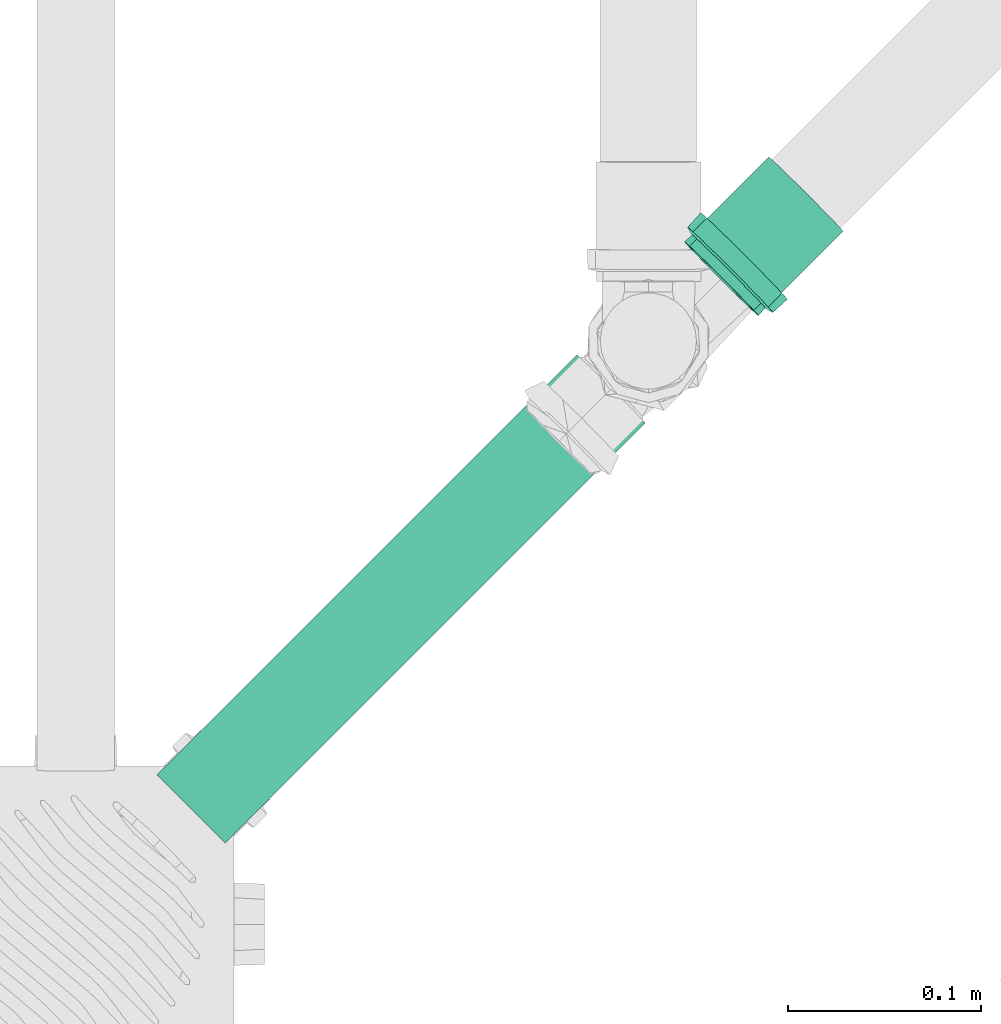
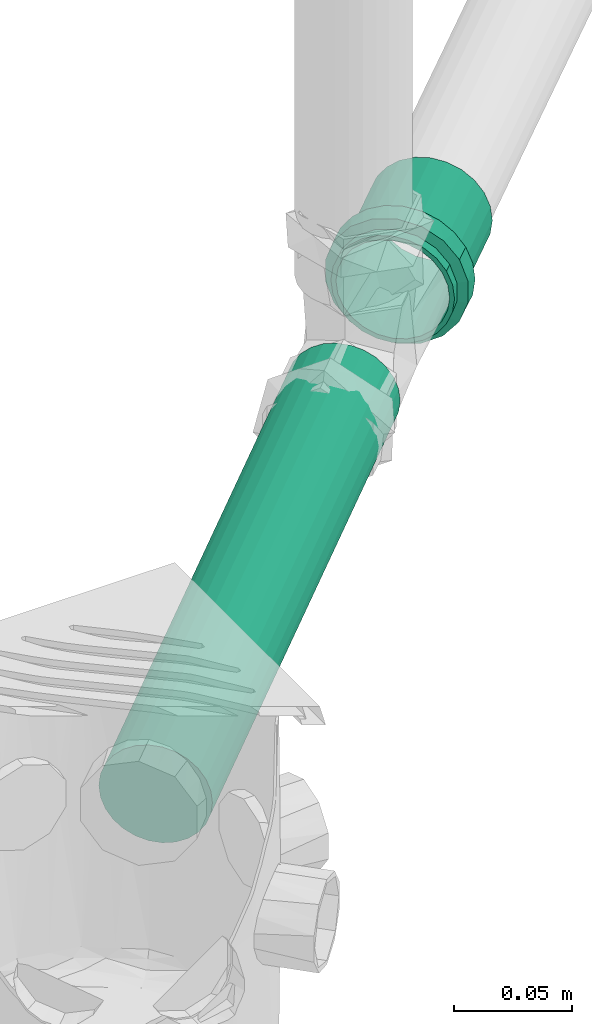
# One storey, part 198 of 589: 1 flow fitting, 1 flow segment.
"""IFC2X3 building model written with IfcOpenShell, lengths in millimetres."""

from ifc_helpers import new_model, entity, si_unit, converted_unit, derived_unit, direction, frame, frame_2d, origin, place, context, subcontext, project, spatial, circle, extrude, faceted_brep, source, transform, mapped, material, type_object, type_shapes, element, save


model = new_model("IFC2X3")

# Units and contexts
model_context = context("Model", 3, precision=0.01, world=origin(), true_north=direction((6.123031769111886e-17, 1.0)))
body_context = subcontext(model_context, "Body", "Model", "MODEL_VIEW")
ifc_project = project(units=[si_unit("LENGTHUNIT", "METRE", prefix="MILLI"), si_unit("AREAUNIT", "SQUARE_METRE"), si_unit("VOLUMEUNIT", "CUBIC_METRE"), converted_unit("PLANEANGLEUNIT", "DEGREE", entity("IfcRatioMeasure", 0.017453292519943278), si_unit("PLANEANGLEUNIT", "RADIAN"), dimensions=[0, 0, 0, 0, 0, 0, 0]), si_unit("MASSUNIT", "GRAM", prefix="KILO"), derived_unit("MASSDENSITYUNIT", [(si_unit("MASSUNIT", "GRAM", prefix="KILO"), 1), (si_unit("LENGTHUNIT", "METRE"), -3)]), derived_unit("IONCONCENTRATIONUNIT", [(si_unit("MASSUNIT", "GRAM", prefix="KILO"), 1), (si_unit("LENGTHUNIT", "METRE"), -3)]), derived_unit("MOMENTOFINERTIAUNIT", [(si_unit("LENGTHUNIT", "METRE"), 4)]), si_unit("TIMEUNIT", "SECOND"), si_unit("FREQUENCYUNIT", "HERTZ"), si_unit("THERMODYNAMICTEMPERATUREUNIT", "DEGREE_CELSIUS"), derived_unit("THERMALTRANSMITTANCEUNIT", [(si_unit("MASSUNIT", "GRAM", prefix="KILO"), 1), (si_unit("THERMODYNAMICTEMPERATUREUNIT", "KELVIN"), -1), (si_unit("TIMEUNIT", "SECOND"), -3)]), derived_unit("THERMALCONDUCTANCEUNIT", [(si_unit("MASSUNIT", "GRAM", prefix="KILO"), 1), (si_unit("THERMODYNAMICTEMPERATUREUNIT", "KELVIN"), -1), (si_unit("TIMEUNIT", "SECOND"), -3), (si_unit("LENGTHUNIT", "METRE"), 1)]), derived_unit("VOLUMETRICFLOWRATEUNIT", [(si_unit("LENGTHUNIT", "METRE"), 3), (si_unit("TIMEUNIT", "SECOND"), -1)]), derived_unit("MASSFLOWRATEUNIT", [(si_unit("MASSUNIT", "GRAM", prefix="KILO"), 1), (si_unit("TIMEUNIT", "SECOND"), -1)]), derived_unit("ROTATIONALFREQUENCYUNIT", [(si_unit("TIMEUNIT", "SECOND"), -1)]), si_unit("ELECTRICCURRENTUNIT", "AMPERE"), si_unit("ELECTRICVOLTAGEUNIT", "VOLT"), si_unit("POWERUNIT", "WATT"), si_unit("FORCEUNIT", "NEWTON", prefix="KILO"), si_unit("ILLUMINANCEUNIT", "LUX"), si_unit("LUMINOUSFLUXUNIT", "LUMEN"), si_unit("LUMINOUSINTENSITYUNIT", "CANDELA"), derived_unit("USERDEFINED", [(si_unit("MASSUNIT", "GRAM", prefix="KILO"), -1), (si_unit("LENGTHUNIT", "METRE"), -2), (si_unit("TIMEUNIT", "SECOND"), 3), (si_unit("LUMINOUSFLUXUNIT", "LUMEN"), 1)]), derived_unit("USERDEFINED", [(si_unit("MASSUNIT", "GRAM", prefix="KILO"), 1), (si_unit("TIMEUNIT", "SECOND"), -3), (si_unit("LENGTHUNIT", "METRE"), 3), (si_unit("ELECTRICCURRENTUNIT", "AMPERE"), -2)]), derived_unit("SOUNDPOWERUNIT", [(si_unit("MASSUNIT", "GRAM", prefix="KILO"), 1), (si_unit("TIMEUNIT", "SECOND"), -3), (si_unit("LENGTHUNIT", "METRE"), 2)]), derived_unit("SOUNDPRESSUREUNIT", [(si_unit("MASSUNIT", "GRAM", prefix="KILO"), 1), (si_unit("LENGTHUNIT", "METRE"), -1), (si_unit("TIMEUNIT", "SECOND"), -2)]), derived_unit("LINEARVELOCITYUNIT", [(si_unit("LENGTHUNIT", "METRE"), 1), (si_unit("TIMEUNIT", "SECOND"), -1)]), si_unit("PRESSUREUNIT", "PASCAL"), derived_unit("USERDEFINED", [(si_unit("MASSUNIT", "GRAM", prefix="KILO"), 1), (si_unit("LENGTHUNIT", "METRE"), -2), (si_unit("TIMEUNIT", "SECOND"), -2)]), derived_unit("LINEARFORCEUNIT", [(si_unit("MASSUNIT", "GRAM", prefix="KILO"), 1), (si_unit("TIMEUNIT", "SECOND"), -2)]), derived_unit("PLANARFORCEUNIT", [(si_unit("MASSUNIT", "GRAM", prefix="KILO"), 1), (si_unit("LENGTHUNIT", "METRE"), -1), (si_unit("TIMEUNIT", "SECOND"), -2)]), derived_unit("SPECIFICHEATCAPACITYUNIT", [(si_unit("THERMODYNAMICTEMPERATUREUNIT", "KELVIN"), -1), (si_unit("LENGTHUNIT", "METRE"), 2), (si_unit("TIMEUNIT", "SECOND"), -2)]), derived_unit("HEATINGVALUEUNIT", [(si_unit("LENGTHUNIT", "METRE"), 2), (si_unit("TIMEUNIT", "SECOND"), -2)]), derived_unit("VAPORPERMEABILITYUNIT", [(si_unit("LENGTHUNIT", "METRE"), -1), (si_unit("TIMEUNIT", "SECOND"), 1)]), derived_unit("DYNAMICVISCOSITYUNIT", [(si_unit("MASSUNIT", "GRAM", prefix="KILO"), 1), (si_unit("TIMEUNIT", "SECOND"), -1), (si_unit("LENGTHUNIT", "METRE"), -1)]), derived_unit("THERMALEXPANSIONCOEFFICIENTUNIT", [(si_unit("THERMODYNAMICTEMPERATUREUNIT", "KELVIN"), -1)]), derived_unit("MODULUSOFELASTICITYUNIT", [(si_unit("MASSUNIT", "GRAM", prefix="KILO"), 1), (si_unit("LENGTHUNIT", "METRE"), -1), (si_unit("TIMEUNIT", "SECOND"), -2)]), derived_unit("ISOTHERMALMOISTURECAPACITYUNIT", [(si_unit("LENGTHUNIT", "METRE"), 3), (si_unit("MASSUNIT", "GRAM", prefix="KILO"), -1)]), derived_unit("MOISTUREDIFFUSIVITYUNIT", [(si_unit("TIMEUNIT", "SECOND"), -1), (si_unit("LENGTHUNIT", "METRE"), 2)])], contexts=[model_context])

# Site, building, storey
site_placement = place(None, origin())
site = spatial("IfcSite", under=ifc_project, at=site_placement, Name="Default", CompositionType="ELEMENT")
building_placement = place(site_placement, origin())
building = spatial("IfcBuilding", under=site, at=building_placement, CompositionType="ELEMENT")
storey_placement = place(building_placement, frame((0.0, 0.0, 100.0)))
storey = spatial("IfcBuildingStorey", under=building, at=storey_placement, Name="TÉRREO", CompositionType="ELEMENT", Elevation=100.0)

# Flow segment
pipe_segment_type = type_object("IfcPipeSegmentType", Name="Tipos de tubos:PVC Esgoto Série Normal", PredefinedType="NOTDEFINED")
flow_segment_placement = place(storey_placement, origin())
element("IfcFlowSegment", 1, at=flow_segment_placement, inside=storey, type_object=pipe_segment_type, Name="Tipos de tubos:PVC Esgoto Série Normal", ObjectType="Tipos de tubos:PVC Esgoto Série Normal", context=body_context, shape_type="SweptSolid", body=[
    extrude(circle(Radius=25.0, at=frame_2d((7.657026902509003e-13, -3.383959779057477e-14), x_axis=(1.0, 0.0))), frame((7609.116250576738, -415.88403786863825, -263.01025401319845), z_axis=(0.7071067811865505, 0.7071067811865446, 0.0), x_axis=(0.7071067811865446, -0.7071067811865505, 0.0)), (0.0, 0.0, 1.0), 308.1856611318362),
])

# Flow fitting
ifc_material = material(Name="PVC Série Normal")
pipe_fitting_type = type_object("IfcPipeFittingType", Name="PVC Esgoto_Luva Simples para Conexão_Rodrigo MEP:Standard", PredefinedType="NOTDEFINED", material=ifc_material)
shared_shape = source(origin(), body_context, "Body", "Brep", [
    faceted_brep([(16.599999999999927, 15.900000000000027, -27.53960784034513), (16.599999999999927, 22.485995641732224, -22.485995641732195), (16.599999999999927, 13.599999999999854, -23.555890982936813), (16.599999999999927, 7.039878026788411, -26.273182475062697), (16.599999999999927, 8.2304456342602, -30.71644127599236), (16.599999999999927, 19.233304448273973, -19.233304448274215), (16.599999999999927, 27.539607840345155, -15.899999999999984), (16.599999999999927, 23.55589098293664, -13.600000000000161), (16.599999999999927, 26.273182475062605, -7.03987802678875), (16.599999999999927, 30.716441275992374, -8.230445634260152), (16.599999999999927, 27.2, 0.0), (16.599999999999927, 31.8, 0.0), (16.599999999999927, 26.273182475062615, 7.0398780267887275), (16.599999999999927, 30.71644127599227, 8.23044563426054), (16.599999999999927, 23.555890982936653, 13.60000000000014), (16.599999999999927, 27.539607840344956, 15.900000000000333), (16.599999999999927, 19.233304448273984, 19.2333044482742), (16.599999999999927, 22.485995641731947, 22.48599564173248), (16.599999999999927, 13.599999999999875, 23.555890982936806), (16.599999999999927, 15.899999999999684, 27.53960784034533), (16.599999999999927, 7.039878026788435, 26.27318247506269), (16.599999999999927, 8.230445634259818, 30.716441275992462), (16.599999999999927, 0.0, 27.2), (16.599999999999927, 0.0, 31.8), (16.599999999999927, -7.039878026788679, 26.273182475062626), (16.599999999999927, -8.230445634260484, 30.716441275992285), (16.599999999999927, -13.600000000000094, 23.555890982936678), (16.599999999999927, -15.900000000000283, 27.53960784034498), (16.599999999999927, -19.23330444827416, 19.233304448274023), (16.599999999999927, -22.485995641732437, 22.48599564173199), (16.599999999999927, -23.55589098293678, 13.59999999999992), (16.599999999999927, -27.539607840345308, 15.899999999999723), (16.599999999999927, -30.71644127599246, 8.230445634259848), (16.599999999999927, -26.273182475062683, 7.039878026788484), (16.599999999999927, -31.8, 0.0), (16.599999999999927, -27.2, 0.0), (16.599999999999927, -30.71644127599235, -8.23044563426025), (16.599999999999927, -26.273182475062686, -7.03987802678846), (16.599999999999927, -27.53960784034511, -15.90000000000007), (16.599999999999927, -23.55589098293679, -13.599999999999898), (16.599999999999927, -22.485995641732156, -22.485995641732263), (16.599999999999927, -19.233304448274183, -19.233304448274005), (16.599999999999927, -15.899999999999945, -27.53960784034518), (16.599999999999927, -13.600000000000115, -23.555890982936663), (16.599999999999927, -8.230445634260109, -30.716441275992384), (16.599999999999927, -7.039878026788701, -26.273182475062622), (16.599999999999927, 0.0, -31.8), (16.599999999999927, 0.0, -27.2), (6.500000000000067, -10.708108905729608, 29.429219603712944), (6.500000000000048, -24.359073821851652, 20.44200387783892), (6.500000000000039, -27.120498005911, 15.6595386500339), (6.50000000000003, -29.881922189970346, 10.877073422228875), (6.500000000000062, -15.89769721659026, 27.540937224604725), (6.500000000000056, -20.128385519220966, 23.991470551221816), (6.50000000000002, -30.840961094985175, 5.438536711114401), (6.5000000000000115, -31.8, 0.0), (6.50000000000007, -5.518520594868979, 31.317501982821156), (6.500000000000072, 5.526376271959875, 31.316116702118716), (6.50000000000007, 0.00392783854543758, 31.316809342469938), (6.500000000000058, 20.134403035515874, 23.986420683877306), (6.500000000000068, 10.715490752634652, 29.42653259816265), (6.500000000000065, 15.904605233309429, 27.536948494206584), (6.500000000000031, 29.8846497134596, 10.869577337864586), (6.500000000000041, 27.12442527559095, 15.652735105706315), (6.5000000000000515, 24.364200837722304, 20.435892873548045), (6.5000000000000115, 31.8, 0.0), (6.499999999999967, 24.364200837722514, -20.435892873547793), (6.499999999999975, 27.12442527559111, -15.652735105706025), (6.499999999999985, 29.884649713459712, -10.869577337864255), (6.4999999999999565, 15.904605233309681, -27.53694849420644), (6.499999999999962, 20.134403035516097, -23.986420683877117), (6.499999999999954, 10.715490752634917, -29.42653259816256), (6.499999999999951, 5.526376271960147, -31.31611670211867), (6.499999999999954, -5.518520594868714, -31.317501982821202), (6.499999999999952, 0.003927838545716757, -31.316809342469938), (6.499999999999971, -20.128385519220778, -23.99147055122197), (6.499999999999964, -15.897697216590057, -27.54093722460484), (6.499999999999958, -10.70810890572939, -29.42921960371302), (6.499999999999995, -29.881922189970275, -10.877073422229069), (6.499999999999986, -27.12049800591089, -15.659538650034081), (6.499999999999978, -24.359073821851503, -20.442003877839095), (6.500000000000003, -30.840961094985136, -5.438536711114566), (6.499999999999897, -30.696173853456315, -6.259599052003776), (62.0, 13.600000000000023, -23.55589098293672), (62.0, 19.233304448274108, -19.23330444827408), (62.0, 12.499999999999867, -21.650635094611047), (62.0, 6.470476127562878, -24.14814565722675), (62.0, 7.039878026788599, -26.273182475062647), (62.0, 17.677669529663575, -17.677669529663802), (62.0, 23.55589098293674, -13.599999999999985), (62.0, 21.65063509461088, -12.50000000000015), (62.0, 24.148145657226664, -6.470476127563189), (62.0, 26.27318247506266, -7.039878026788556), (62.0, 25.0, 0.0), (62.0, 27.2, 0.0), (62.0, 24.148145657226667, 6.4704761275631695), (62.0, 26.273182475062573, 7.03987802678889), (62.0, 21.650635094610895, 12.500000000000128), (62.0, 23.555890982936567, 13.600000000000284), (62.0, 17.67766952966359, 17.67766952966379), (62.0, 19.233304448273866, 19.233304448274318), (62.0, 12.499999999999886, 21.650635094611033), (62.0, 13.59999999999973, 23.55589098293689), (62.0, 6.4704761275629, 24.14814565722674), (62.0, 7.039878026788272, 26.273182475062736), (62.0, 0.0, 25.0), (62.0, 0.0, 27.2), (62.0, -6.470476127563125, 24.148145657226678), (62.0, -7.039878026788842, 26.273182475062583), (62.0, -12.500000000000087, 21.650635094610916), (62.0, -13.600000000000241, 23.555890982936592), (62.0, -17.677669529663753, 17.677669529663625), (62.0, -19.233304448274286, 19.2333044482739), (62.0, -21.65063509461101, 12.499999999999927), (62.0, -23.555890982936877, 13.599999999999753), (62.0, -26.27318247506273, 7.039878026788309), (62.0, -24.14814565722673, 6.470476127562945), (62.0, -27.2, 0.0), (62.0, -25.0, 0.0), (62.0, -26.27318247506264, -7.0398780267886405), (62.0, -24.148145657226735, -6.470476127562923), (62.0, -23.5558909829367, -13.600000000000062), (62.0, -21.650635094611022, -12.499999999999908), (62.0, -19.233304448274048, -19.233304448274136), (62.0, -17.67766952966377, -17.677669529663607), (62.0, -13.599999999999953, -23.555890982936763), (62.0, -12.500000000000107, -21.650635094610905), (62.0, -7.039878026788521, -26.27318247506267), (62.0, -6.470476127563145, -24.148145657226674), (62.0, 0.0, -27.2), (62.0, 0.0, -25.0), (0.0, 12.499999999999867, -21.650635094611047), (0.0, 19.233304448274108, -19.23330444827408), (0.0, 13.600000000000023, -23.55589098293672), (0.0, 6.470476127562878, -24.14814565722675), (0.0, 17.677669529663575, -17.677669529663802), (0.0, 23.55589098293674, -13.599999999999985), (0.0, 21.65063509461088, -12.50000000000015), (0.0, 24.148145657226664, -6.470476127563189), (0.0, 26.27318247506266, -7.039878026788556), (0.0, 25.0, 0.0), (0.0, 27.2, 0.0), (0.0, 24.148145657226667, 6.4704761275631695), (0.0, 26.273182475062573, 7.03987802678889), (0.0, 21.650635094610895, 12.500000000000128), (0.0, 23.555890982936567, 13.600000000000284), (0.0, 17.67766952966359, 17.67766952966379), (0.0, 19.233304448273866, 19.233304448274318), (0.0, 12.499999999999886, 21.650635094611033), (0.0, 13.59999999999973, 23.55589098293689), (0.0, 6.4704761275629, 24.14814565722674), (0.0, 7.039878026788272, 26.273182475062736), (0.0, 0.0, 25.0), (0.0, 0.0, 27.2), (0.0, -6.470476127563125, 24.148145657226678), (0.0, -7.039878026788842, 26.273182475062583), (0.0, -12.500000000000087, 21.650635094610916), (0.0, -13.600000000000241, 23.555890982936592), (0.0, -17.677669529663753, 17.677669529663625), (0.0, -19.233304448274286, 19.2333044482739), (0.0, -21.65063509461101, 12.499999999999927), (0.0, -23.555890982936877, 13.599999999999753), (0.0, -26.27318247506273, 7.039878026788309), (0.0, -24.14814565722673, 6.470476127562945), (0.0, -27.2, 0.0), (0.0, -25.0, 0.0), (0.0, -26.27318247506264, -7.0398780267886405), (0.0, -24.148145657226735, -6.470476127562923), (0.0, -23.5558909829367, -13.600000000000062), (0.0, -21.650635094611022, -12.499999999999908), (0.0, -19.233304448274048, -19.233304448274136), (0.0, -17.67766952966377, -17.677669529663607), (0.0, -13.599999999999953, -23.555890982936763), (0.0, -12.500000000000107, -21.650635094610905), (0.0, -7.039878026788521, -26.27318247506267), (0.0, -6.470476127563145, -24.148145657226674), (0.0, 0.0, -27.2), (0.0, 0.0, -25.0), (0.0, 7.039878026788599, -26.273182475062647), (5.300000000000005, -26.37968999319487, 4.651830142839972), (5.299999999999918, -26.25584678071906, 5.354122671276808), (5.300000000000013, -25.559379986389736, 9.303660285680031), (5.300000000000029, -20.835434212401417, 17.48498444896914), (5.300000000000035, -17.216732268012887, 20.521006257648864), (5.300000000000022, -23.19740709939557, 13.394322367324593), (5.3000000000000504, -4.720244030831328, 26.787297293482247), (5.300000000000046, -9.15913717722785, 25.172162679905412), (5.299999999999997, -27.2, 0.0), (5.300000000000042, -13.598030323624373, 23.557028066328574), (5.300000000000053, 9.165451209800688, 25.169864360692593), (5.300000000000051, 13.603939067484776, 23.55361632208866), (5.300000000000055, 4.7269633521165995, 26.786112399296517), (5.300000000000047, 17.221879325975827, 20.516686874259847), (5.300000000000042, 20.839819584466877, 17.479757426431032), (5.3000000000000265, 25.56171296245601, 9.297248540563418), (5.299999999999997, 27.2, 0.0), (5.3000000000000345, 23.20076627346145, 13.388502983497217), (5.300000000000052, 0.003359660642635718, 26.786704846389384), (5.299999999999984, 25.56171296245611, -9.29724854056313), (5.299999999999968, 20.839819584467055, -17.47975742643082), (5.2999999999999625, 17.22187932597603, -20.516686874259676), (5.299999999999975, 23.200766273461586, -13.388502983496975), (5.299999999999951, 4.726963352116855, -26.78611239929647), (5.2999999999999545, 9.165451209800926, -25.169864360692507), (5.299999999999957, 13.603939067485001, -23.553616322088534), (5.29999999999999, -26.379689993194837, -4.651830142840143), (5.299999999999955, -9.159137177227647, -25.17216267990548), (5.299999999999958, -13.5980303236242, -23.55702806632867), (5.299999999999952, -4.720244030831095, -26.787297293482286), (5.299999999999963, -17.216732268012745, -20.52100625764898), (5.299999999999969, -20.83543421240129, -17.484984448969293), (5.299999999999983, -25.559379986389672, -9.303660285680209), (5.299999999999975, -23.197407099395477, -13.394322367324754), (5.299999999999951, 0.003359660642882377, -26.78670484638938), (39.0, -25.0, 0.0), (39.0, 25.0, 0.0)], [[[0, 1, 2]], [[0, 2, 3]], [[3, 4, 0]], [[2, 1, 5]], [[6, 5, 1]], [[7, 5, 6]], [[8, 7, 6]], [[8, 6, 9]], [[8, 9, 10]], [[10, 9, 11]], [[12, 10, 11]], [[12, 11, 13]], [[14, 12, 13]], [[14, 13, 15]], [[16, 14, 15]], [[15, 17, 16]], [[17, 18, 16]], [[17, 19, 18]], [[18, 19, 20]], [[21, 20, 19]], [[20, 21, 22]], [[22, 21, 23]], [[22, 23, 24]], [[24, 23, 25]], [[24, 25, 26]], [[27, 26, 25]], [[27, 28, 26]], [[28, 27, 29]], [[30, 28, 29]], [[31, 30, 29]], [[32, 30, 31]], [[33, 30, 32]], [[33, 32, 34]], [[35, 33, 34]], [[36, 35, 34]], [[36, 37, 35]], [[37, 36, 38]], [[39, 37, 38]], [[39, 38, 40]], [[39, 40, 41]], [[40, 42, 41]], [[41, 42, 43]], [[43, 42, 44]], [[44, 45, 43]], [[46, 45, 44]], [[4, 47, 46]], [[46, 47, 45]], [[4, 3, 47]], [[48, 27, 25]], [[31, 29, 49]], [[31, 49, 50, 51]], [[52, 53, 27]], [[32, 51, 54]], [[54, 55, 34]], [[54, 34, 32]], [[25, 56, 48]], [[49, 29, 53]], [[23, 57, 58, 56]], [[59, 19, 17]], [[27, 53, 29]], [[48, 52, 27]], [[31, 51, 32]], [[57, 23, 21]], [[60, 19, 61]], [[15, 62, 63, 64]], [[19, 60, 21]], [[15, 13, 62]], [[17, 64, 59]], [[57, 21, 60]], [[23, 56, 25]], [[15, 64, 17]], [[13, 65, 62]], [[13, 11, 65]], [[59, 61, 19]], [[65, 11, 9]], [[6, 1, 66]], [[6, 66, 67, 68]], [[69, 70, 0]], [[68, 65, 9]], [[71, 69, 0]], [[71, 0, 4]], [[4, 72, 71]], [[66, 1, 70]], [[46, 73, 74, 72]], [[75, 76, 42]], [[0, 70, 1]], [[75, 42, 40]], [[6, 68, 9]], [[73, 46, 44]], [[77, 42, 76]], [[38, 78, 79, 80]], [[42, 77, 44]], [[38, 36, 78]], [[40, 80, 75]], [[73, 44, 77]], [[46, 72, 4]], [[38, 80, 40]], [[36, 81, 82, 78]], [[55, 81, 34]], [[34, 81, 36]], [[83, 84, 85]], [[83, 85, 86]], [[86, 87, 83]], [[85, 84, 88]], [[89, 88, 84]], [[88, 89, 90]], [[90, 89, 91]], [[92, 91, 89]], [[92, 93, 91]], [[93, 92, 94]], [[95, 93, 94]], [[94, 96, 95]], [[95, 96, 97]], [[98, 97, 96]], [[97, 98, 99]], [[99, 98, 100]], [[101, 99, 100]], [[100, 102, 101]], [[101, 102, 103]], [[104, 103, 102]], [[103, 104, 105]], [[105, 104, 106]], [[105, 106, 107]], [[107, 106, 108]], [[107, 108, 109]], [[110, 109, 108]], [[110, 111, 109]], [[111, 110, 112]], [[112, 113, 111]], [[114, 113, 112]], [[113, 114, 115]], [[115, 116, 113]], [[117, 116, 115]], [[117, 118, 116]], [[119, 118, 117]], [[119, 120, 118]], [[120, 119, 121]], [[121, 122, 120]], [[122, 121, 123]], [[122, 123, 124]], [[123, 125, 124]], [[124, 125, 126]], [[126, 125, 127]], [[127, 128, 126]], [[129, 128, 127]], [[87, 130, 129]], [[129, 130, 128]], [[87, 86, 130]], [[131, 132, 133]], [[134, 131, 133]], [[135, 132, 131]], [[132, 135, 136]], [[137, 136, 135]], [[138, 136, 137]], [[136, 138, 139]], [[138, 140, 139]], [[141, 139, 140]], [[141, 140, 142]], [[142, 143, 141]], [[144, 143, 142]], [[143, 144, 145]], [[146, 145, 144]], [[147, 145, 146]], [[147, 146, 148]], [[148, 149, 147]], [[150, 149, 148]], [[149, 150, 151]], [[152, 151, 150]], [[153, 151, 152]], [[154, 153, 152]], [[155, 153, 154]], [[156, 155, 154]], [[155, 156, 157]], [[156, 158, 157]], [[159, 157, 158]], [[158, 160, 159]], [[159, 160, 161]], [[162, 161, 160]], [[160, 163, 162]], [[162, 163, 164]], [[163, 165, 164]], [[164, 165, 166]], [[165, 167, 166]], [[168, 166, 167]], [[167, 169, 168]], [[170, 168, 169]], [[171, 170, 169]], [[171, 172, 170]], [[173, 172, 171]], [[174, 172, 173]], [[173, 175, 174]], [[174, 175, 176]], [[175, 177, 176]], [[177, 134, 178]], [[176, 177, 178]], [[133, 178, 134]], [[162, 179, 180, 181]], [[159, 182, 183]], [[182, 161, 181, 184]], [[185, 155, 186]], [[161, 162, 181]], [[187, 179, 164]], [[183, 188, 157]], [[183, 157, 159]], [[161, 182, 159]], [[189, 190, 149]], [[189, 149, 151]], [[157, 188, 186]], [[157, 186, 155]], [[153, 155, 185]], [[164, 179, 162]], [[151, 191, 189]], [[147, 192, 193]], [[143, 194, 195]], [[194, 145, 193, 196]], [[143, 195, 141]], [[10, 12, 96, 94]], [[149, 192, 147]], [[153, 185, 197, 191]], [[153, 191, 151]], [[145, 147, 193]], [[190, 192, 149]], [[145, 194, 143]], [[139, 195, 198]], [[132, 199, 200]], [[199, 136, 198, 201]], [[202, 178, 203]], [[136, 139, 198]], [[139, 141, 195]], [[92, 8, 10, 94]], [[133, 203, 178]], [[200, 204, 133]], [[136, 199, 132]], [[205, 164, 166]], [[206, 207, 172]], [[133, 204, 203]], [[206, 172, 174]], [[176, 178, 202]], [[200, 133, 132]], [[174, 208, 206]], [[170, 209, 210]], [[166, 211, 205]], [[211, 168, 210, 212]], [[168, 211, 166]], [[172, 209, 170]], [[176, 202, 213, 208]], [[176, 208, 174]], [[168, 170, 210]], [[207, 209, 172]], [[205, 187, 164]], [[116, 118, 214, 165, 163]], [[156, 109, 111, 158]], [[111, 113, 160, 158]], [[113, 116, 163, 160]], [[107, 109, 156, 154]], [[154, 152, 105, 107]], [[103, 105, 152, 150]], [[103, 150, 148, 101]], [[142, 95, 97, 144]], [[97, 99, 146, 144]], [[99, 101, 148, 146]], [[93, 95, 142, 140, 215]], [[215, 140, 138, 91, 93]], [[135, 131, 85, 88]], [[90, 91, 138, 137]], [[90, 137, 135, 88]], [[86, 85, 131, 134]], [[134, 177, 130, 86]], [[128, 130, 177, 175]], [[128, 175, 173, 126]], [[167, 120, 122, 169]], [[122, 124, 171, 169]], [[124, 126, 173, 171]], [[118, 120, 167, 165, 214]], [[211, 78, 82, 81, 55, 187, 205]], [[79, 78, 211, 212, 210, 80]], [[75, 80, 210, 209, 207, 76]], [[207, 206, 208, 73, 77, 76]], [[213, 202, 72, 74, 73, 208]], [[203, 204, 69, 71, 72, 202]], [[198, 195, 65, 68]], [[199, 201, 198, 68, 67, 66]], [[204, 200, 199, 66, 70, 69]], [[195, 194, 62, 65]], [[197, 185, 56, 58, 57, 191]], [[63, 62, 194, 196, 193, 64]], [[57, 60, 61, 190, 189, 191]], [[193, 192, 190, 61, 59, 64]], [[48, 56, 185, 186, 188, 52]], [[187, 55, 54, 51, 181, 180, 179]], [[182, 184, 181, 51, 50, 49]], [[188, 183, 182, 49, 53, 52]], [[30, 33, 115, 114]], [[117, 115, 33, 35]], [[26, 28, 112, 110]], [[114, 112, 28, 30]], [[24, 26, 110, 108]], [[108, 106, 22, 24]], [[18, 20, 104, 102]], [[100, 16, 18, 102]], [[12, 14, 98, 96]], [[100, 98, 14, 16]], [[104, 20, 22, 106]], [[89, 7, 8, 92]], [[83, 87, 3, 2]], [[7, 89, 84, 5]], [[83, 2, 5, 84]], [[87, 129, 47, 3]], [[43, 45, 127, 125]], [[123, 41, 43, 125]], [[37, 39, 121, 119]], [[123, 121, 39, 41]], [[35, 37, 119, 117]], [[127, 45, 47, 129]]]),
])
type_shapes(pipe_fitting_type, [shared_shape])
flow_fitting_placement = place(storey_placement, frame((7884.30048865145, -140.6997997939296, -264.63912170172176), z_axis=(0.7071067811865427, -0.7071067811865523, 0.0), x_axis=(0.7069637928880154, 0.7069637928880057, -0.020109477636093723)))
element("IfcFlowFitting", 2, at=flow_fitting_placement, inside=storey, type_object=pipe_fitting_type, material=ifc_material, Name="PVC Esgoto_Luva Simples para Conexão_Rodrigo MEP:Standard", ObjectType="PVC Esgoto_Luva Simples para Conexão_Rodrigo MEP:Standard", context=body_context, shape_type="MappedRepresentation", body=[
    mapped(shared_shape, transform((0.0, 0.0, 0.0), scale=1.0)),
])

save(model, "model.ifc")
